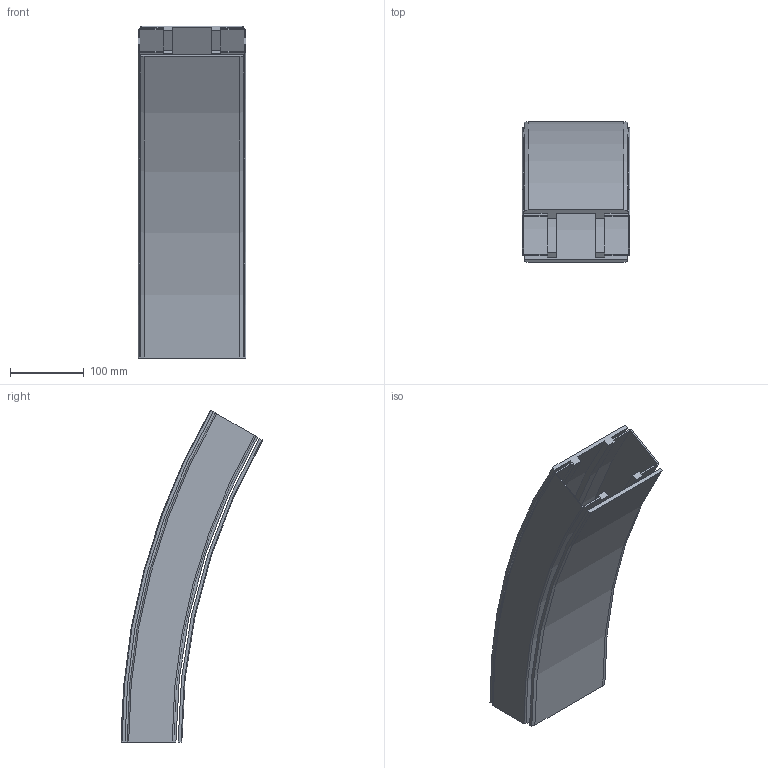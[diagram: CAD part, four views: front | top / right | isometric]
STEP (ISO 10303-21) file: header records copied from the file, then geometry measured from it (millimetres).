
FILE_DESCRIPTION((''),'2;1');
FILE_NAME('C:\Vault Klient\Projekt\Koncept konstruktion\Serie 540 Balk\540-5660_DOWN.stp','2010-11-26T08:28:44',('Mathias'),(''),'Autodesk Inventor 2011','Autodesk Inventor 2011','');
FILE_SCHEMA(('AUTOMOTIVE_DESIGN { 1 0 10303 214 1 1 1 1 }'));
Length unit declared in the file: millimetre
Products named in the file (1): 540-5660_DOWN
Bounding box: 146 x 191.52 x 449.75 mm (x, y, z)
Volume: 1032043.6 mm3; surface area: 537723.9 mm2
Topology: 2 solids, 2 shells, 87 faces, 234 edges, 156 vertices
Faces by surface type: plane 38, cylinder 25, bspline 14, cone 6, torus 4
Entity records: 3221 total; most frequent: CARTESIAN_POINT 983, ORIENTED_EDGE 468, DIRECTION 428, EDGE_CURVE 234, VERTEX_POINT 156, AXIS2_PLACEMENT_3D 148, VECTOR 132, LINE 132
